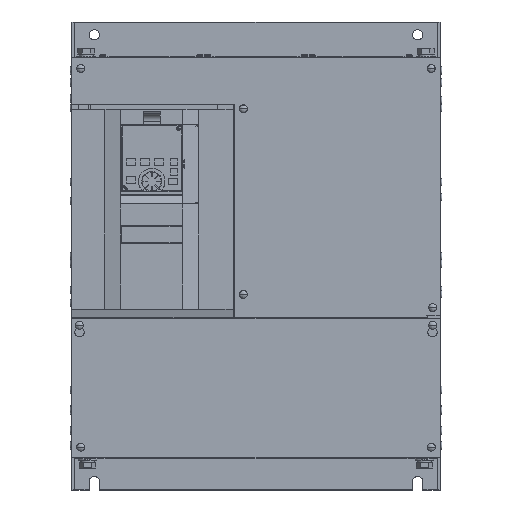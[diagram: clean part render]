
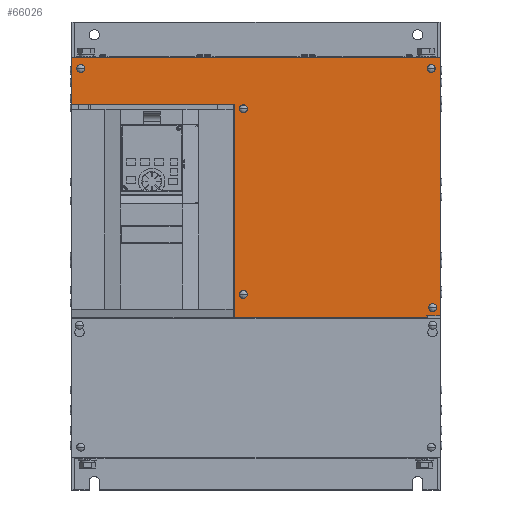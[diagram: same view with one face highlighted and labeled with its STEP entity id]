
A CAD part, top view. The second image highlights one B-rep face of the part: STEP entity #66026.
In plain terms, the highlighted planar face has unit normal (0, 0, 1).
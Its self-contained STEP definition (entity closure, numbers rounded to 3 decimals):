
#20700=DIRECTION('',(0.,-1.,0.));
#20701=VECTOR('',#20700,303.);
#20702=CARTESIAN_POINT('',(433.,467.5,239.6));
#20703=LINE('',#20702,#20701);
#21398=DIRECTION('',(0.,-1.,0.));
#21399=VECTOR('',#21398,54.5);
#21400=CARTESIAN_POINT('',(0.,467.5,239.6));
#21401=LINE('',#21400,#21399);
#21842=DIRECTION('',(-1.,0.,0.));
#21843=VECTOR('',#21842,16.);
#21844=CARTESIAN_POINT('',(433.,164.5,239.6));
#21845=LINE('',#21844,#21843);
#21846=DIRECTION('',(0.,1.,0.));
#21847=VECTOR('',#21846,2.);
#21848=CARTESIAN_POINT('',(417.,162.5,239.6));
#21849=LINE('',#21848,#21847);
#21850=DIRECTION('',(0.,1.,0.));
#21851=VECTOR('',#21850,250.5);
#21852=CARTESIAN_POINT('',(191.,162.5,239.6));
#21853=LINE('',#21852,#21851);
#21854=DIRECTION('',(1.,0.,0.));
#21855=VECTOR('',#21854,191.);
#21856=CARTESIAN_POINT('',(0.,413.,239.6));
#21857=LINE('',#21856,#21855);
#21858=DIRECTION('',(1.,0.,0.));
#21859=VECTOR('',#21858,433.);
#21860=CARTESIAN_POINT('',(0.,467.5,239.6));
#21861=LINE('',#21860,#21859);
#21862=CARTESIAN_POINT('',(10.5,455.,239.6));
#21863=DIRECTION('',(0.,0.,-1.));
#21864=DIRECTION('',(-1.,0.,0.));
#21865=AXIS2_PLACEMENT_3D('',#21862,#21863,#21864);
#21867=CARTESIAN_POINT('',(10.5,455.,239.6));
#21868=DIRECTION('',(0.,0.,-1.));
#21869=DIRECTION('',(1.,0.,0.));
#21870=AXIS2_PLACEMENT_3D('',#21867,#21868,#21869);
#21872=CARTESIAN_POINT('',(201.6,407.5,239.6));
#21873=DIRECTION('',(0.,0.,-1.));
#21874=DIRECTION('',(-1.,0.,0.));
#21875=AXIS2_PLACEMENT_3D('',#21872,#21873,#21874);
#21877=CARTESIAN_POINT('',(201.6,407.5,239.6));
#21878=DIRECTION('',(0.,0.,-1.));
#21879=DIRECTION('',(1.,0.,0.));
#21880=AXIS2_PLACEMENT_3D('',#21877,#21878,#21879);
#21882=CARTESIAN_POINT('',(201.6,189.5,239.6));
#21883=DIRECTION('',(0.,0.,-1.));
#21884=DIRECTION('',(-1.,0.,0.));
#21885=AXIS2_PLACEMENT_3D('',#21882,#21883,#21884);
#21887=CARTESIAN_POINT('',(201.6,189.5,239.6));
#21888=DIRECTION('',(0.,0.,-1.));
#21889=DIRECTION('',(1.,0.,0.));
#21890=AXIS2_PLACEMENT_3D('',#21887,#21888,#21889);
#21892=CARTESIAN_POINT('',(424.,174.,239.6));
#21893=DIRECTION('',(0.,0.,-1.));
#21894=DIRECTION('',(-1.,0.,0.));
#21895=AXIS2_PLACEMENT_3D('',#21892,#21893,#21894);
#21897=CARTESIAN_POINT('',(424.,174.,239.6));
#21898=DIRECTION('',(0.,0.,-1.));
#21899=DIRECTION('',(1.,0.,0.));
#21900=AXIS2_PLACEMENT_3D('',#21897,#21898,#21899);
#21902=CARTESIAN_POINT('',(422.5,455.,239.6));
#21903=DIRECTION('',(0.,0.,-1.));
#21904=DIRECTION('',(-1.,0.,0.));
#21905=AXIS2_PLACEMENT_3D('',#21902,#21903,#21904);
#21907=CARTESIAN_POINT('',(422.5,455.,239.6));
#21908=DIRECTION('',(0.,0.,-1.));
#21909=DIRECTION('',(1.,0.,0.));
#21910=AXIS2_PLACEMENT_3D('',#21907,#21908,#21909);
#21920=DIRECTION('',(1.,0.,0.));
#21921=VECTOR('',#21920,226.);
#21922=CARTESIAN_POINT('',(191.,162.5,239.6));
#21923=LINE('',#21922,#21921);
#33884=CARTESIAN_POINT('',(0.,467.5,239.6));
#33886=VERTEX_POINT('',#33884);
#33892=CARTESIAN_POINT('',(433.,467.5,239.6));
#33894=VERTEX_POINT('',#33892);
#33899=CARTESIAN_POINT('',(191.,162.5,239.6));
#33900=CARTESIAN_POINT('',(191.,413.,239.6));
#33901=VERTEX_POINT('',#33899);
#33902=VERTEX_POINT('',#33900);
#33903=CARTESIAN_POINT('',(0.,413.,239.6));
#33904=VERTEX_POINT('',#33903);
#33913=CARTESIAN_POINT('',(433.,164.5,239.6));
#33914=CARTESIAN_POINT('',(417.,164.5,239.6));
#33915=VERTEX_POINT('',#33913);
#33916=VERTEX_POINT('',#33914);
#33917=CARTESIAN_POINT('',(417.,162.5,239.6));
#33918=VERTEX_POINT('',#33917);
#33949=CARTESIAN_POINT('',(5.8,455.,239.6));
#33950=CARTESIAN_POINT('',(15.2,455.,239.6));
#33951=VERTEX_POINT('',#33949);
#33952=VERTEX_POINT('',#33950);
#33963=CARTESIAN_POINT('',(196.9,407.5,239.6));
#33964=CARTESIAN_POINT('',(206.3,407.5,239.6));
#33965=VERTEX_POINT('',#33963);
#33966=VERTEX_POINT('',#33964);
#33985=CARTESIAN_POINT('',(196.9,189.5,239.6));
#33986=CARTESIAN_POINT('',(206.3,189.5,239.6));
#33987=VERTEX_POINT('',#33985);
#33988=VERTEX_POINT('',#33986);
#34003=CARTESIAN_POINT('',(419.3,174.,239.6));
#34004=CARTESIAN_POINT('',(428.7,174.,239.6));
#34005=VERTEX_POINT('',#34003);
#34006=VERTEX_POINT('',#34004);
#34013=CARTESIAN_POINT('',(417.8,455.,239.6));
#34014=CARTESIAN_POINT('',(427.2,455.,239.6));
#34015=VERTEX_POINT('',#34013);
#34016=VERTEX_POINT('',#34014);
#65980=CARTESIAN_POINT('',(0.,467.5,239.6));
#65981=DIRECTION('',(0.,0.,1.));
#65982=DIRECTION('',(0.,-1.,0.));
#65983=AXIS2_PLACEMENT_3D('',#65980,#65981,#65982);
#65984=PLANE('',#65983);
#65985=ORIENTED_EDGE('',*,*,#64905,.T.);
#65986=ORIENTED_EDGE('',*,*,#64923,.F.);
#65988=ORIENTED_EDGE('',*,*,#65987,.F.);
#65989=ORIENTED_EDGE('',*,*,#64957,.T.);
#65990=ORIENTED_EDGE('',*,*,#64987,.F.);
#65991=ORIENTED_EDGE('',*,*,#65007,.F.);
#65992=ORIENTED_EDGE('',*,*,#65975,.T.);
#65993=ORIENTED_EDGE('',*,*,#63956,.T.);
#65994=EDGE_LOOP('',(#65985,#65986,#65988,#65989,#65990,#65991,#65992,#65993));
#65995=FACE_OUTER_BOUND('',#65994,.F.);
#65997=ORIENTED_EDGE('',*,*,#65996,.F.);
#65999=ORIENTED_EDGE('',*,*,#65998,.F.);
#66000=EDGE_LOOP('',(#65997,#65999));
#66001=FACE_BOUND('',#66000,.F.);
#66003=ORIENTED_EDGE('',*,*,#66002,.F.);
#66005=ORIENTED_EDGE('',*,*,#66004,.F.);
#66006=EDGE_LOOP('',(#66003,#66005));
#66007=FACE_BOUND('',#66006,.F.);
#66009=ORIENTED_EDGE('',*,*,#66008,.F.);
#66011=ORIENTED_EDGE('',*,*,#66010,.F.);
#66012=EDGE_LOOP('',(#66009,#66011));
#66013=FACE_BOUND('',#66012,.F.);
#66015=ORIENTED_EDGE('',*,*,#66014,.F.);
#66017=ORIENTED_EDGE('',*,*,#66016,.F.);
#66018=EDGE_LOOP('',(#66015,#66017));
#66019=FACE_BOUND('',#66018,.F.);
#66021=ORIENTED_EDGE('',*,*,#66020,.F.);
#66023=ORIENTED_EDGE('',*,*,#66022,.F.);
#66024=EDGE_LOOP('',(#66021,#66023));
#66025=FACE_BOUND('',#66024,.F.);
#66026=ADVANCED_FACE('',(#65995,#66001,#66007,#66013,#66019,#66025),#65984,.T.);
#21866=CIRCLE('',#21865,4.7);
#21871=CIRCLE('',#21870,4.7);
#21876=CIRCLE('',#21875,4.7);
#21881=CIRCLE('',#21880,4.7);
#21886=CIRCLE('',#21885,4.7);
#21891=CIRCLE('',#21890,4.7);
#21896=CIRCLE('',#21895,4.7);
#21901=CIRCLE('',#21900,4.7);
#21906=CIRCLE('',#21905,4.7);
#21911=CIRCLE('',#21910,4.7);
#63956=EDGE_CURVE('',#33894,#33915,#20703,.T.);
#64905=EDGE_CURVE('',#33915,#33916,#21845,.T.);
#64923=EDGE_CURVE('',#33918,#33916,#21849,.T.);
#64957=EDGE_CURVE('',#33901,#33902,#21853,.T.);
#64987=EDGE_CURVE('',#33904,#33902,#21857,.T.);
#65007=EDGE_CURVE('',#33886,#33904,#21401,.T.);
#65975=EDGE_CURVE('',#33886,#33894,#21861,.T.);
#65987=EDGE_CURVE('',#33901,#33918,#21923,.T.);
#65996=EDGE_CURVE('',#33951,#33952,#21866,.T.);
#65998=EDGE_CURVE('',#33952,#33951,#21871,.T.);
#66002=EDGE_CURVE('',#33965,#33966,#21876,.T.);
#66004=EDGE_CURVE('',#33966,#33965,#21881,.T.);
#66008=EDGE_CURVE('',#33987,#33988,#21886,.T.);
#66010=EDGE_CURVE('',#33988,#33987,#21891,.T.);
#66014=EDGE_CURVE('',#34005,#34006,#21896,.T.);
#66016=EDGE_CURVE('',#34006,#34005,#21901,.T.);
#66020=EDGE_CURVE('',#34015,#34016,#21906,.T.);
#66022=EDGE_CURVE('',#34016,#34015,#21911,.T.);
